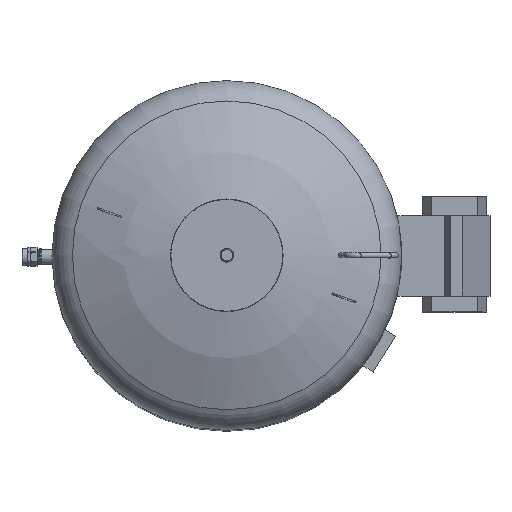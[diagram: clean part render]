
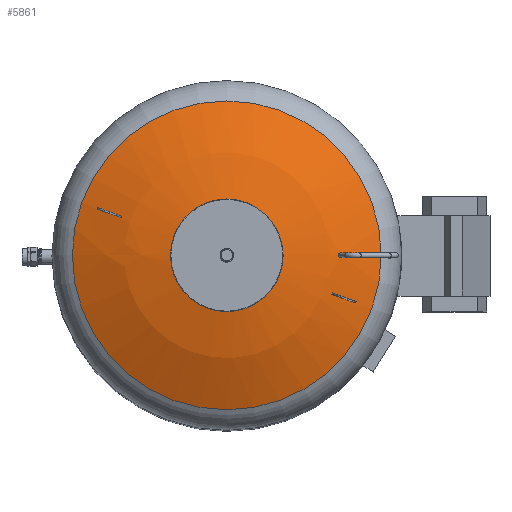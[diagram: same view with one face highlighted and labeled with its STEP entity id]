
A CAD part, top view. The second image highlights one B-rep face of the part: STEP entity #5861.
In plain terms, the highlighted spherical face has radius 1004.3 mm.
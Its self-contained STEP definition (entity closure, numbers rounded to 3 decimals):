
#28=SPHERICAL_SURFACE('',#6421,1004.3);
#32=B_SPLINE_CURVE_WITH_KNOTS('',3,(#9414,#9415,#9416,#9417,#9418,#9419,
#9420,#9421,#9422,#9423,#9424,#9425,#9426,#9427,#9428,#9429,#9430,#9431),
 .UNSPECIFIED.,.F.,.F.,(4,2,2,2,2,2,2,2,4),(0.,0.283,0.567,
0.85,1.132,1.415,1.697,1.981,
2.265),.UNSPECIFIED.);
#33=B_SPLINE_CURVE_WITH_KNOTS('',3,(#9432,#9433,#9434,#9435,#9436,#9437,
#9438,#9439,#9440,#9441,#9442,#9443,#9444,#9445,#9446,#9447,#9448,#9449),
 .UNSPECIFIED.,.F.,.F.,(4,2,2,2,2,2,2,2,4),(2.265,2.548,
2.832,3.115,3.397,3.679,3.962,
4.246,4.529),.UNSPECIFIED.);
#188=FACE_BOUND('',#794,.T.);
#453=FACE_OUTER_BOUND('',#793,.T.);
#793=EDGE_LOOP('',(#4549,#4550,#4551,#4552,#4553,#4554));
#794=EDGE_LOOP('',(#4555,#4556));
#2051=CIRCLE('',#6419,139.567);
#2052=CIRCLE('',#6420,139.567);
#2053=CIRCLE('',#6422,1004.3);
#2054=CIRCLE('',#6423,441.557);
#2055=CIRCLE('',#6424,441.557);
#2447=VERTEX_POINT('',#9411);
#2448=VERTEX_POINT('',#9413);
#2509=VERTEX_POINT('',#9637);
#2510=VERTEX_POINT('',#9638);
#2511=VERTEX_POINT('',#9643);
#2512=VERTEX_POINT('',#9645);
#3142=EDGE_CURVE('',#2448,#2447,#32,.T.);
#3143=EDGE_CURVE('',#2447,#2448,#33,.T.);
#3239=EDGE_CURVE('',#2509,#2510,#2051,.T.);
#3240=EDGE_CURVE('',#2510,#2509,#2052,.T.);
#3242=EDGE_CURVE('',#2509,#2511,#2053,.T.);
#3243=EDGE_CURVE('',#2512,#2511,#2054,.T.);
#3244=EDGE_CURVE('',#2511,#2512,#2055,.T.);
#4549=ORIENTED_EDGE('',*,*,#3239,.T.);
#4550=ORIENTED_EDGE('',*,*,#3240,.T.);
#4551=ORIENTED_EDGE('',*,*,#3242,.T.);
#4552=ORIENTED_EDGE('',*,*,#3243,.F.);
#4553=ORIENTED_EDGE('',*,*,#3244,.F.);
#4554=ORIENTED_EDGE('',*,*,#3242,.F.);
#4555=ORIENTED_EDGE('',*,*,#3142,.T.);
#4556=ORIENTED_EDGE('',*,*,#3143,.T.);
#5861=ADVANCED_FACE('',(#453,#188),#28,.T.);
#6419=AXIS2_PLACEMENT_3D('',#9639,#7711,#7712);
#6420=AXIS2_PLACEMENT_3D('',#9640,#7713,#7714);
#6421=AXIS2_PLACEMENT_3D('',#9642,#7716,#7717);
#6422=AXIS2_PLACEMENT_3D('',#9644,#7718,#7719);
#6423=AXIS2_PLACEMENT_3D('',#9646,#7720,#7721);
#6424=AXIS2_PLACEMENT_3D('',#9647,#7722,#7723);
#7711=DIRECTION('center_axis',(0.,0.,-1.));
#7712=DIRECTION('ref_axis',(1.,0.,0.));
#7713=DIRECTION('center_axis',(0.,0.,-1.));
#7714=DIRECTION('ref_axis',(1.,0.,0.));
#7716=DIRECTION('center_axis',(0.,0.,1.));
#7717=DIRECTION('ref_axis',(1.,0.,0.));
#7718=DIRECTION('center_axis',(0.,-1.,0.));
#7719=DIRECTION('ref_axis',(-1.,0.,0.));
#7720=DIRECTION('center_axis',(0.,0.,-1.));
#7721=DIRECTION('ref_axis',(1.,0.,0.));
#7722=DIRECTION('center_axis',(0.,0.,-1.));
#7723=DIRECTION('ref_axis',(1.,0.,0.));
#9411=CARTESIAN_POINT('',(326.494,-7.5,2438.608));
#9413=CARTESIAN_POINT('',(326.494,7.5,2438.608));
#9414=CARTESIAN_POINT('Ctrl Pts',(326.494,7.5,2438.608));
#9415=CARTESIAN_POINT('Ctrl Pts',(327.387,7.5,2438.301));
#9416=CARTESIAN_POINT('Ctrl Pts',(328.341,7.312,2437.973));
#9417=CARTESIAN_POINT('Ctrl Pts',(330.095,6.547,2437.37));
#9418=CARTESIAN_POINT('Ctrl Pts',(330.896,5.97,2437.095));
#9419=CARTESIAN_POINT('Ctrl Pts',(332.161,4.638,2436.66));
#9420=CARTESIAN_POINT('Ctrl Pts',(332.709,3.795,2436.471));
#9421=CARTESIAN_POINT('Ctrl Pts',(333.436,1.947,2436.221));
#9422=CARTESIAN_POINT('Ctrl Pts',(333.615,0.943,2436.16));
#9423=CARTESIAN_POINT('Ctrl Pts',(333.615,-0.942,2436.16));
#9424=CARTESIAN_POINT('Ctrl Pts',(333.436,-1.946,2436.221));
#9425=CARTESIAN_POINT('Ctrl Pts',(332.711,-3.792,2436.471));
#9426=CARTESIAN_POINT('Ctrl Pts',(332.164,-4.634,2436.659));
#9427=CARTESIAN_POINT('Ctrl Pts',(330.9,-5.967,2437.093));
#9428=CARTESIAN_POINT('Ctrl Pts',(330.098,-6.545,2437.369));
#9429=CARTESIAN_POINT('Ctrl Pts',(328.343,-7.312,2437.973));
#9430=CARTESIAN_POINT('Ctrl Pts',(327.388,-7.5,2438.301));
#9431=CARTESIAN_POINT('Ctrl Pts',(326.494,-7.5,2438.608));
#9432=CARTESIAN_POINT('Ctrl Pts',(326.494,-7.5,2438.608));
#9433=CARTESIAN_POINT('Ctrl Pts',(325.6,-7.5,2438.916));
#9434=CARTESIAN_POINT('Ctrl Pts',(324.646,-7.312,2439.244));
#9435=CARTESIAN_POINT('Ctrl Pts',(322.89,-6.545,2439.847));
#9436=CARTESIAN_POINT('Ctrl Pts',(322.088,-5.967,2440.123));
#9437=CARTESIAN_POINT('Ctrl Pts',(320.824,-4.634,2440.557));
#9438=CARTESIAN_POINT('Ctrl Pts',(320.277,-3.792,2440.745));
#9439=CARTESIAN_POINT('Ctrl Pts',(319.552,-1.946,2440.995));
#9440=CARTESIAN_POINT('Ctrl Pts',(319.373,-0.942,2441.056));
#9441=CARTESIAN_POINT('Ctrl Pts',(319.373,0.942,2441.056));
#9442=CARTESIAN_POINT('Ctrl Pts',(319.552,1.946,2440.995));
#9443=CARTESIAN_POINT('Ctrl Pts',(320.277,3.792,2440.745));
#9444=CARTESIAN_POINT('Ctrl Pts',(320.824,4.634,2440.557));
#9445=CARTESIAN_POINT('Ctrl Pts',(322.088,5.967,2440.123));
#9446=CARTESIAN_POINT('Ctrl Pts',(322.89,6.545,2439.847));
#9447=CARTESIAN_POINT('Ctrl Pts',(324.646,7.312,2439.244));
#9448=CARTESIAN_POINT('Ctrl Pts',(325.6,7.5,2438.916));
#9449=CARTESIAN_POINT('Ctrl Pts',(326.494,7.5,2438.608));
#9637=CARTESIAN_POINT('',(-139.567,0.,2483.445));
#9638=CARTESIAN_POINT('',(139.567,0.,2483.445));
#9639=CARTESIAN_POINT('Origin',(0.,0.,2483.445));
#9640=CARTESIAN_POINT('Origin',(0.,0.,2483.445));
#9642=CARTESIAN_POINT('Origin',(0.,0.,1488.89));
#9643=CARTESIAN_POINT('',(-441.557,0.,2390.913));
#9644=CARTESIAN_POINT('Origin',(0.,0.,1488.89));
#9645=CARTESIAN_POINT('',(441.557,0.,2390.913));
#9646=CARTESIAN_POINT('Origin',(0.,0.,2390.913));
#9647=CARTESIAN_POINT('Origin',(0.,0.,2390.913));
